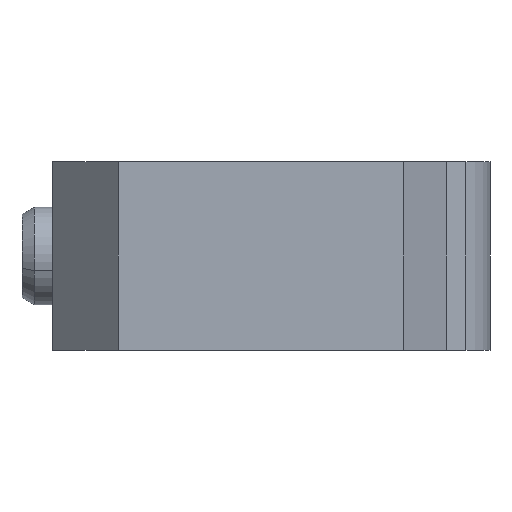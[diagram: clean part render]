
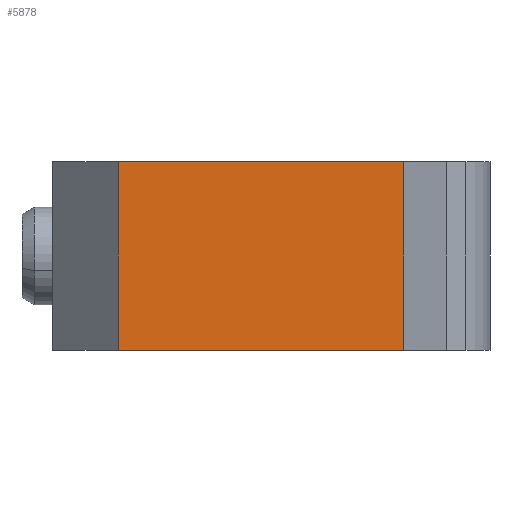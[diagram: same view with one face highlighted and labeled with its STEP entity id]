
A CAD part, left-side view. The second image highlights one B-rep face of the part: STEP entity #5878.
In plain terms, the highlighted planar face has unit normal (-1, 0, 0).
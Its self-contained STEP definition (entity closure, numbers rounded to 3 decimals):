
#5080 = DIRECTION ( 'NONE',  ( 0., -1., 0. ) ) ;
#5081 = VECTOR ( 'NONE', #5080, 1000. ) ;
#5082 = CARTESIAN_POINT ( 'NONE',  ( -18.7, 47.528, 23.2 ) ) ;
#5083 = LINE ( 'NONE', #5082, #5081 ) ;
#5128 = CARTESIAN_POINT ( 'NONE',  ( -18.7, 4.472, 23.2 ) ) ;
#5133 = CARTESIAN_POINT ( 'NONE',  ( -18.7, 39.528, 23.2 ) ) ;
#5156 = EDGE_CURVE ( 'NONE', #5164, #5168, #5083, .T. ) ;
#5164 = VERTEX_POINT ( 'NONE', #5133 ) ;
#5168 = VERTEX_POINT ( 'NONE', #5128 ) ;
#5487 = DIRECTION ( 'NONE',  ( 0., -1., 0. ) ) ;
#5488 = VECTOR ( 'NONE', #5487, 1000. ) ;
#5489 = CARTESIAN_POINT ( 'NONE',  ( -18.7, 47.528, 0. ) ) ;
#5490 = LINE ( 'NONE', #5489, #5488 ) ;
#5541 = CARTESIAN_POINT ( 'NONE',  ( -18.7, 39.528, 0. ) ) ;
#5552 = CARTESIAN_POINT ( 'NONE',  ( -18.7, 4.472, 0. ) ) ;
#5607 = DIRECTION ( 'NONE',  ( 0., 0., -1. ) ) ;
#5608 = VECTOR ( 'NONE', #5607, 1000. ) ;
#5609 = CARTESIAN_POINT ( 'NONE',  ( -18.7, 4.472, 23.2 ) ) ;
#5610 = LINE ( 'NONE', #5609, #5608 ) ;
#5673 = DIRECTION ( 'NONE',  ( 0., 1., 0. ) ) ;
#5674 = DIRECTION ( 'NONE',  ( 1., 0., 0. ) ) ;
#5675 = CARTESIAN_POINT ( 'NONE',  ( -18.7, 47.528, 23.2 ) ) ;
#5676 = AXIS2_PLACEMENT_3D ( 'NONE', #5675, #5674, #5673 ) ;
#5677 = PLANE ( 'NONE',  #5676 ) ;
#5679 = FACE_OUTER_BOUND ( 'NONE', #5866, .T. ) ;
#5782 = DIRECTION ( 'NONE',  ( 0., 0., -1. ) ) ;
#5783 = VECTOR ( 'NONE', #5782, 1000. ) ;
#5784 = CARTESIAN_POINT ( 'NONE',  ( -18.7, 39.528, 23.2 ) ) ;
#5788 = LINE ( 'NONE', #5784, #5783 ) ;
#5790 = EDGE_CURVE ( 'NONE', #5810, #5801, #5490, .T. ) ;
#5801 = VERTEX_POINT ( 'NONE', #5552 ) ;
#5810 = VERTEX_POINT ( 'NONE', #5541 ) ;
#5840 = ORIENTED_EDGE ( 'NONE', *, *, #5790, .T. ) ;
#5841 = ORIENTED_EDGE ( 'NONE', *, *, #5842, .F. ) ;
#5842 = EDGE_CURVE ( 'NONE', #5168, #5801, #5610, .T. ) ;
#5866 = EDGE_LOOP ( 'NONE', ( #5927, #5928, #5840, #5841 ) ) ;
#5878 = ADVANCED_FACE ( 'NONE', ( #5679 ), #5677, .F. ) ;
#5927 = ORIENTED_EDGE ( 'NONE', *, *, #5156, .F. ) ;
#5928 = ORIENTED_EDGE ( 'NONE', *, *, #5929, .T. ) ;
#5929 = EDGE_CURVE ( 'NONE', #5164, #5810, #5788, .T. ) ;
